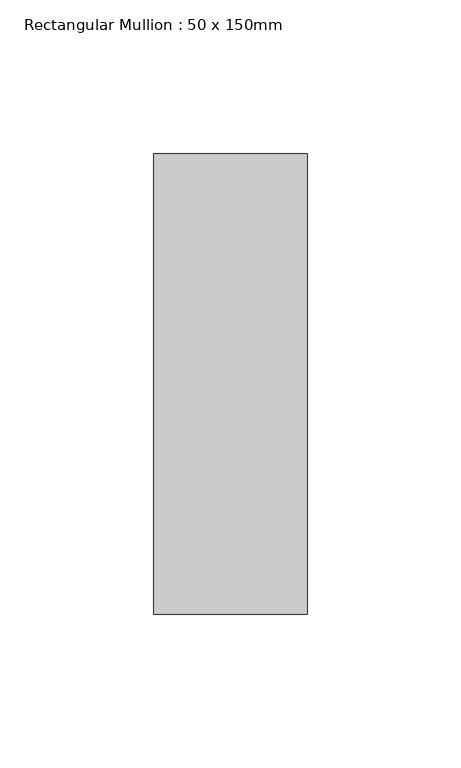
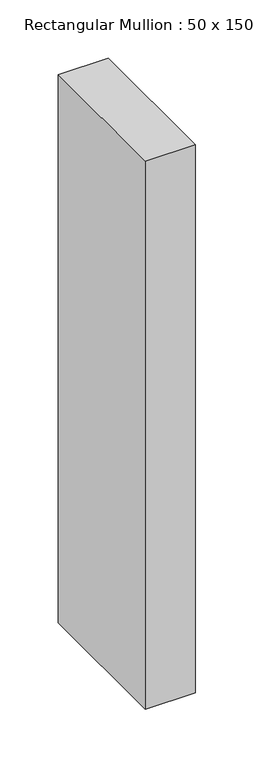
"""IFC4 building model written with IfcOpenShell, lengths in millimetres: member geometry, Rectangular Mullion : 50 x 150mm."""

from ifc_helpers import new_model, si_unit, frame, origin, place, context, project, spatial, polyline, outline, extrude, source, transform, mapped, element, save


def rectangular_mullion_50_x_150mm_0c16336d(model_context):
    return source(origin(), model_context, "Body", "SweptSolid", [
        extrude(outline(polyline([(0.0, 75.0), (0.0, -75.0), (-50.0, -75.0), (-50.0, 75.0), (0.0, 75.0)])), frame((0.0, 0.0, -576.7028746), z_axis=(0.0, 0.0, 1.0), x_axis=(1.0, 0.0, 0.0)), (0.0, 0.0, 1.0), 576.7028746),
    ])


if __name__ == "__main__":
    model = new_model("IFC4")
    model_context = context("Model", 3, world=origin())
    ifc_project = project(units=[si_unit("LENGTHUNIT", "METRE", prefix="MILLI")], contexts=[model_context])
    site = spatial("IfcSite", under=ifc_project)
    building = spatial("IfcBuilding", under=site)
    placement = place(None, origin())
    rectangular_mullion_50_x_150mm_shape = rectangular_mullion_50_x_150mm_0c16336d(model_context)
    element("IfcMember", 1, ObjectType="Rectangular Mullion : 50 x 150mm", at=placement, inside=building, context=model_context, shape_type="MappedRepresentation", body=[
        mapped(rectangular_mullion_50_x_150mm_shape, transform((0.0, 0.0, 0.0), x_axis=(1.0, 0.0, 0.0), y_axis=(0.0, 1.0, 0.0), z_axis=(0.0, 0.0, 1.0))),
    ])
    save(model, "model.ifc")
